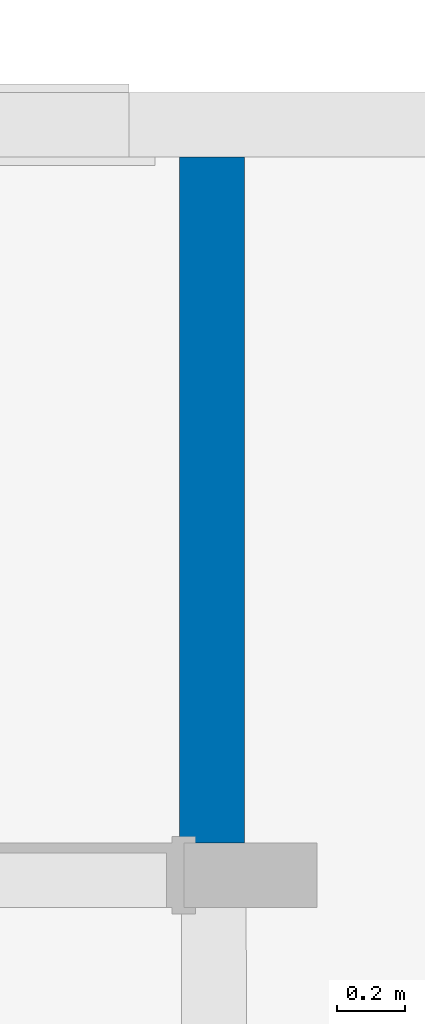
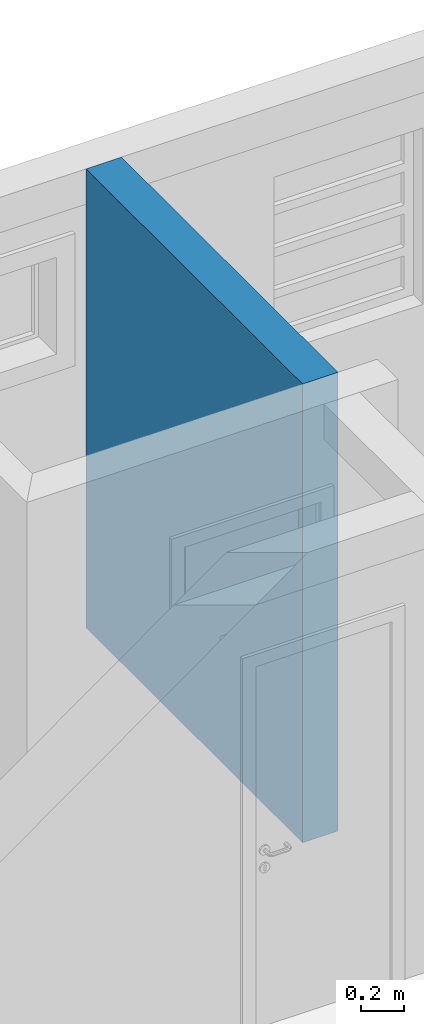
# One storey, part 18 of 43: 1 wall.
"""IFC2X3 building model written with IfcOpenShell, lengths in millimetres."""

from ifc_helpers import new_model, entity, si_unit, converted_unit, derived_unit, money_unit, direction, frame, origin_with_axes, place, context, subcontext, project, spatial, polyline, outline, extrude, material, layer, layer_set, layer_usage, type_object, element, save


model = new_model("IFC2X3")

# Units and contexts
model_context = context("Model", 3, precision=0.01, world=origin_with_axes(), true_north=direction((0.0, 1.0)))
body_context = subcontext(model_context, "Body", "Model", "MODEL_VIEW")
ifc_project = project(units=[si_unit("LENGTHUNIT", "METRE", prefix="MILLI"), si_unit("AREAUNIT", "SQUARE_METRE"), si_unit("VOLUMEUNIT", "CUBIC_METRE"), converted_unit("PLANEANGLEUNIT", "DEGREE", entity("IfcPlaneAngleMeasure", 0.0174532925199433), si_unit("PLANEANGLEUNIT", "RADIAN"), dimensions=[0, 0, 0, 0, 0, 0, 0]), money_unit("USD"), converted_unit("TIMEUNIT", "Year", entity("IfcTimeMeasure", 31557600.0), si_unit("TIMEUNIT", "SECOND"), dimensions=[0, 0, 1, 0, 0, 0, 0]), si_unit("MASSUNIT", "GRAM", prefix="KILO"), si_unit("THERMODYNAMICTEMPERATUREUNIT", "DEGREE_CELSIUS"), si_unit("LUMINOUSINTENSITYUNIT", "LUMEN"), si_unit("ENERGYUNIT", "JOULE", prefix="MEGA"), derived_unit("THERMALCONDUCTANCEUNIT", [(si_unit("POWERUNIT", "WATT"), 1), (si_unit("LENGTHUNIT", "METRE"), -1), (si_unit("THERMODYNAMICTEMPERATUREUNIT", "KELVIN"), -1)]), derived_unit("SPECIFICHEATCAPACITYUNIT", [(si_unit("ENERGYUNIT", "JOULE"), 1), (si_unit("MASSUNIT", "GRAM", prefix="KILO"), -1), (si_unit("THERMODYNAMICTEMPERATUREUNIT", "KELVIN"), -1)]), derived_unit("MASSDENSITYUNIT", [(si_unit("MASSUNIT", "GRAM", prefix="KILO"), 1), (si_unit("VOLUMEUNIT", "CUBIC_METRE"), -1)])], contexts=[model_context])

# Site, building, storey
site_placement = place(None, origin_with_axes())
site = spatial("IfcSite", under=ifc_project, at=site_placement, Name="Local", CompositionType="ELEMENT")
building_placement = place(site_placement, origin_with_axes())
building = spatial("IfcBuilding", under=site, at=building_placement, Name="Construção", CompositionType="ELEMENT")
storey_placement = place(building_placement, origin_with_axes())
storey = spatial("IfcBuildingStorey", under=building, at=storey_placement, Name="Pavimento Tipo", CompositionType="ELEMENT", Elevation=0.0)

# Wall
ifc_material = material(Name="Concreto - Estrutural")
ifc_layer = layer(ifc_material, 190.0, ventilated="UNKNOWN")
ifc_layer_set = layer_set([ifc_layer], Name="Concreto - Estrutural 190")
ifc_layer_usage = layer_usage(ifc_layer_set, "AXIS2", "POSITIVE", -190.0)
wall_type = type_object("IfcWallType", Name="Concreto - Estrutural 190", PredefinedType="NOTDEFINED")
wall_placement = place(storey_placement, frame((70064.64904613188, -1757.538479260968, 0.0), z_axis=(0.0, 0.0, 1.0), x_axis=(0.0, -1.0, 0.0)))
element("IfcWallStandardCase", 1, at=wall_placement, inside=storey, type_object=wall_type, material=ifc_layer_usage, Name="Apartamento 4 - Parede-009", context=body_context, shape_type="SweptSolid", body=[
    extrude(outline(polyline([(0.0, -189.9999999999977), (2009.999999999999, -189.9999999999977), (2009.999999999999, 0.0), (0.0, 0.0), (0.0, -189.9999999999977)])), origin_with_axes(), (0.0, 0.0, 1.0), 2600.0),
])

save(model, "model.ifc")
